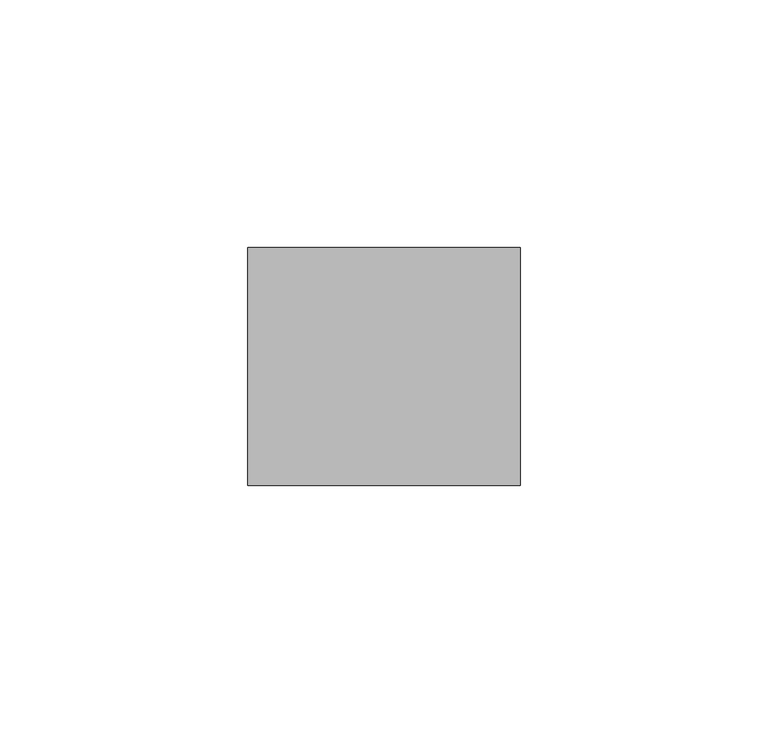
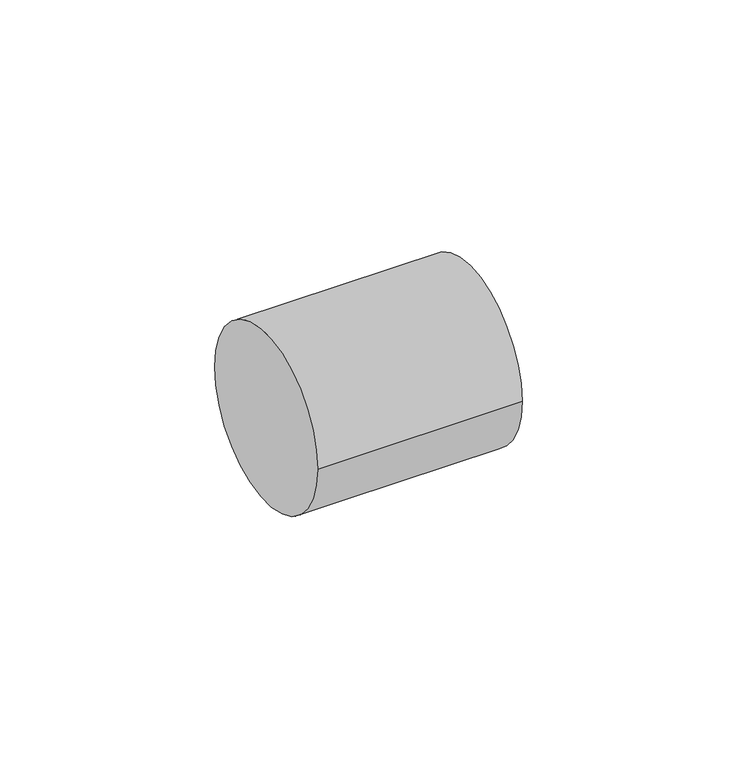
"""IFC4 building model written with IfcOpenShell, lengths in millimetres: pipe fitting geometry, 01051005 : Uniao Simples."""

from ifc_helpers import new_model, si_unit, point, frame, origin, origin_2d, place, context, project, spatial, circle_curve, trimmed, segment, composite_curve, outline, extrude, source, transform, mapped, element, save


def pipe_fitting_57bff80f(model_context):
    return source(origin(), model_context, "Body", "SweptSolid", [
        extrude(outline(composite_curve([segment(trimmed(circle_curve(origin_2d(), 24.0), [point((-24.0, 0.0))], [point((24.0, 0.0))], False, "CARTESIAN"), True, "CONTINUOUS"), segment(trimmed(circle_curve(origin_2d(), 24.0), [point((24.0, 0.0))], [point((-24.0, 0.0))], False, "CARTESIAN"), True, "CONTINUOUS")], self_intersect=False)), frame((-27.5, 0.0, 0.0), z_axis=(1.0, 0.0, 0.0), x_axis=(0.0, 1.0, 0.0)), (0.0, 0.0, 1.0), 55.0),
    ])


if __name__ == "__main__":
    model = new_model("IFC4")
    model_context = context("Model", 3, world=origin())
    ifc_project = project(units=[si_unit("LENGTHUNIT", "METRE", prefix="MILLI")], contexts=[model_context])
    site = spatial("IfcSite", under=ifc_project)
    building = spatial("IfcBuilding", under=site)
    placement = place(None, origin())
    pipe_fitting_shape = pipe_fitting_57bff80f(model_context)
    element("IfcPipeFitting", 1, ObjectType="01051005 : Uniao Simples", at=placement, inside=building, context=model_context, shape_type="MappedRepresentation", body=[
        mapped(pipe_fitting_shape, transform((0.0, 0.0, 0.0), x_axis=(1.0, 0.0, 0.0), y_axis=(0.0, 1.0, 0.0), z_axis=(0.0, 0.0, 1.0))),
    ])
    save(model, "model.ifc")
